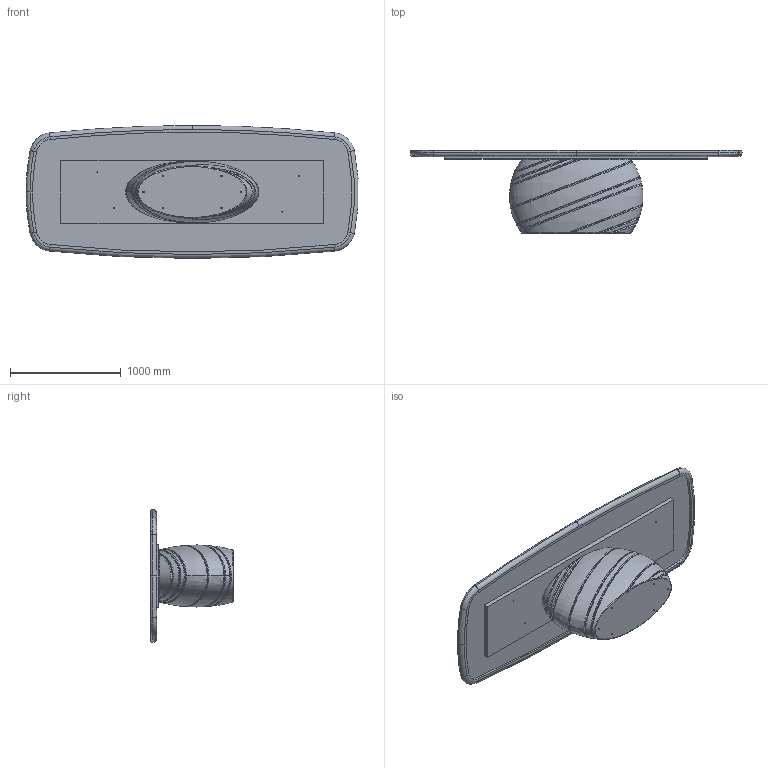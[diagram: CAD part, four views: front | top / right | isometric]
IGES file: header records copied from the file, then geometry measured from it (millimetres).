
Start section: SolidWorks IGES file using analytic representation for surfaces
Global section: file name: Y:\eforma\TECNICO\SOLIDWORKS\E-FORMA\1-TAVOLI\GIOVE\08 modelli 3D web\GI44K.IGS; native system: SolidWorks 2022; preprocessor: SolidWorks 2022; author: eforma.tech; date: 250422.162029; units: millimetre
Bounding box: 2995.86 x 748 x 1200 mm (x, y, z)
Volume: 497147290 mm3; surface area: 19344826.1 mm2
Topology: 4 solids, 4 shells, 213 faces, 500 edges, 310 vertices
Faces by surface type: revolution 109, bspline 53, plane 51
